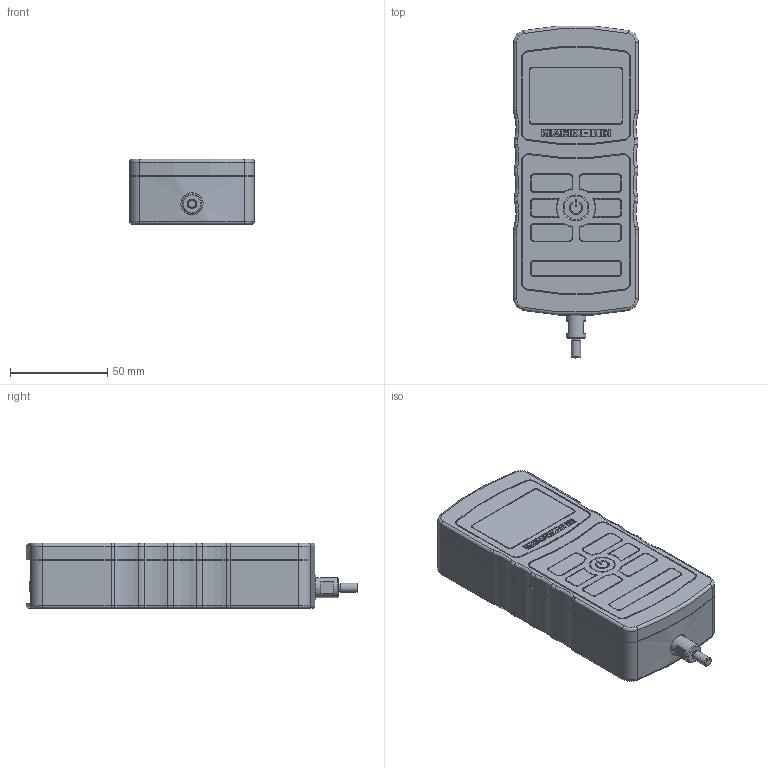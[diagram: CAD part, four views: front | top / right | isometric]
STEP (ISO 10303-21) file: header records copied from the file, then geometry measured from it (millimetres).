
FILE_DESCRIPTION((''),'2;1');
FILE_NAME('S:\web2\pdf\solidmodels\M5.stp','2012-11-29T17:41:13',('mlampen'),(''),'Autodesk Inventor 2010','Autodesk Inventor 2010','');
FILE_SCHEMA(('AUTOMOTIVE_DESIGN { 1 0 10303 214 1 1 1 1 }'));
Length unit declared in the file: inch
Products named in the file (1): Part2
Bounding box: 64.26 x 170.93 x 33.84 mm (x, y, z)
Volume: 306028.3 mm3; surface area: 22124.8 mm2
Topology: 4 solids, 4 shells, 756 faces, 1879 edges, 1217 vertices
Faces by surface type: plane 348, cylinder 271, bspline 70, torus 52, cone 13, sphere 2
Full cylindrical faces by diameter (mm): 1.016 x10, 2.063 x1, 2.068 x2, 2.5 x1, 3.175 x1, 3.505 x6, 3.81 x1, 4 x2, 4.775 x1, 4.826 x1, 5.486 x2, 6.299 x1, 6.35 x2, 7.163 x1, 7.925 x1, 7.938 x1, 10.16 x1, 11.43 x1, 11.938 x1, 12.065 x1, 12.7 x1, 13.335 x1
Entity records: 22256 total; most frequent: CARTESIAN_POINT 4346, DIRECTION 3836, ORIENTED_EDGE 3546, EDGE_CURVE 1773, AXIS2_PLACEMENT_3D 1391, VERTEX_POINT 1175, VECTOR 1054, LINE 1054
